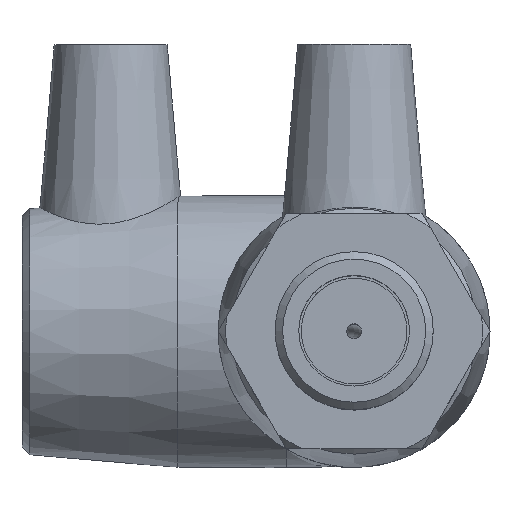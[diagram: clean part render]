
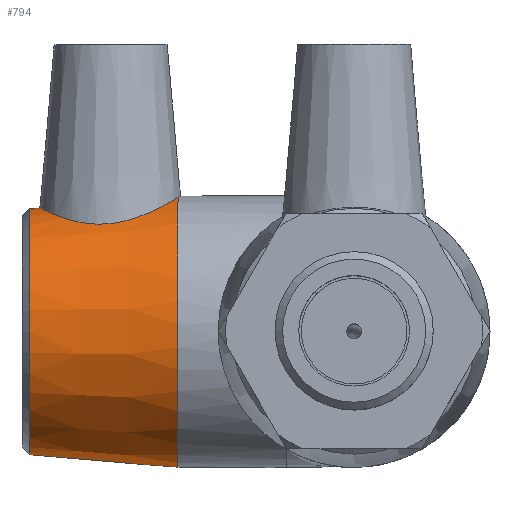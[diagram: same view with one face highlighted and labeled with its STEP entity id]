
A CAD part, top view. The second image highlights one B-rep face of the part: STEP entity #794.
In plain terms, the highlighted conical face has half-angle 4.978 degrees and reference radius 17.1 mm.
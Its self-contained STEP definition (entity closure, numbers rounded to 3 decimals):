
#78=B_SPLINE_CURVE_WITH_KNOTS('',3,(#1270,#1271,#1272,#1273,#1274,#1275,
#1276,#1277,#1278,#1279,#1280,#1281,#1282,#1283,#1284,#1285,#1286,#1287,
#1288,#1289,#1290,#1291,#1292,#1293,#1294,#1295),.UNSPECIFIED.,.F.,.F.,
(4,2,2,2,2,2,2,2,2,2,2,2,4),(5.857,6.206,6.556,
6.908,7.26,7.612,7.964,8.314,
8.663,9.052,9.441,9.814,9.936),
 .UNSPECIFIED.);
#79=B_SPLINE_CURVE_WITH_KNOTS('',3,(#1298,#1299,#1300,#1301,#1302,#1303,
#1304,#1305,#1306,#1307),.UNSPECIFIED.,.F.,.F.,(4,2,2,2,4),(4.584,
4.706,5.079,5.468,5.857),
 .UNSPECIFIED.);
#86=CONICAL_SURFACE('',#869,17.1,4.978);
#139=FACE_BOUND('',#249,.T.);
#179=FACE_OUTER_BOUND('',#248,.T.);
#248=EDGE_LOOP('',(#584,#585,#586));
#249=EDGE_LOOP('',(#587));
#344=CIRCLE('',#868,16.287);
#345=CIRCLE('',#870,18.);
#397=VERTEX_POINT('',#1265);
#398=VERTEX_POINT('',#1268);
#399=VERTEX_POINT('',#1269);
#400=VERTEX_POINT('',#1296);
#476=EDGE_CURVE('',#397,#397,#344,.T.);
#477=EDGE_CURVE('',#398,#399,#78,.T.);
#478=EDGE_CURVE('',#400,#399,#345,.T.);
#479=EDGE_CURVE('',#400,#398,#79,.T.);
#584=ORIENTED_EDGE('',*,*,#477,.T.);
#585=ORIENTED_EDGE('',*,*,#478,.F.);
#586=ORIENTED_EDGE('',*,*,#479,.T.);
#587=ORIENTED_EDGE('',*,*,#476,.F.);
#794=ADVANCED_FACE('',(#179,#139),#86,.T.);
#868=AXIS2_PLACEMENT_3D('',#1266,#1002,#1003);
#869=AXIS2_PLACEMENT_3D('',#1267,#1004,#1005);
#870=AXIS2_PLACEMENT_3D('',#1297,#1006,#1007);
#1002=DIRECTION('center_axis',(-1.,0.,0.));
#1003=DIRECTION('ref_axis',(0.,-1.,0.));
#1004=DIRECTION('center_axis',(1.,0.,0.));
#1005=DIRECTION('ref_axis',(0.,1.,0.));
#1006=DIRECTION('center_axis',(1.,0.,0.));
#1007=DIRECTION('ref_axis',(0.,0.,-1.));
#1265=CARTESIAN_POINT('',(-43.004,16.287,0.));
#1266=CARTESIAN_POINT('Origin',(-43.004,0.,0.));
#1267=CARTESIAN_POINT('Origin',(-33.667,0.,0.));
#1268=CARTESIAN_POINT('',(-32.764,14.272,9.562));
#1269=CARTESIAN_POINT('',(-23.333,17.818,-2.554));
#1270=CARTESIAN_POINT('Ctrl Pts',(-32.764,14.272,9.562));
#1271=CARTESIAN_POINT('Ctrl Pts',(-33.925,14.188,9.505));
#1272=CARTESIAN_POINT('Ctrl Pts',(-35.138,14.268,9.207));
#1273=CARTESIAN_POINT('Ctrl Pts',(-37.326,14.673,8.163));
#1274=CARTESIAN_POINT('Ctrl Pts',(-38.305,14.984,7.417));
#1275=CARTESIAN_POINT('Ctrl Pts',(-39.842,15.557,5.75));
#1276=CARTESIAN_POINT('Ctrl Pts',(-40.512,15.861,4.706));
#1277=CARTESIAN_POINT('Ctrl Pts',(-41.406,16.289,2.418));
#1278=CARTESIAN_POINT('Ctrl Pts',(-41.629,16.406,1.174));
#1279=CARTESIAN_POINT('Ctrl Pts',(-41.629,16.406,-1.174));
#1280=CARTESIAN_POINT('Ctrl Pts',(-41.406,16.289,-2.418));
#1281=CARTESIAN_POINT('Ctrl Pts',(-40.512,15.861,-4.706));
#1282=CARTESIAN_POINT('Ctrl Pts',(-39.842,15.557,-5.75));
#1283=CARTESIAN_POINT('Ctrl Pts',(-38.305,14.984,-7.417));
#1284=CARTESIAN_POINT('Ctrl Pts',(-37.326,14.673,-8.163));
#1285=CARTESIAN_POINT('Ctrl Pts',(-35.138,14.268,-9.207));
#1286=CARTESIAN_POINT('Ctrl Pts',(-33.925,14.188,-9.505));
#1287=CARTESIAN_POINT('Ctrl Pts',(-31.473,14.365,-9.624));
#1288=CARTESIAN_POINT('Ctrl Pts',(-30.141,14.665,-9.398));
#1289=CARTESIAN_POINT('Ctrl Pts',(-27.729,15.484,-8.427));
#1290=CARTESIAN_POINT('Ctrl Pts',(-26.644,15.988,-7.682));
#1291=CARTESIAN_POINT('Ctrl Pts',(-24.961,16.851,-5.985));
#1292=CARTESIAN_POINT('Ctrl Pts',(-24.231,17.276,-4.923));
#1293=CARTESIAN_POINT('Ctrl Pts',(-23.579,17.667,-3.354));
#1294=CARTESIAN_POINT('Ctrl Pts',(-23.443,17.75,-2.958));
#1295=CARTESIAN_POINT('Ctrl Pts',(-23.333,17.818,-2.554));
#1296=CARTESIAN_POINT('',(-23.333,17.818,2.554));
#1297=CARTESIAN_POINT('Origin',(-23.333,0.,0.));
#1298=CARTESIAN_POINT('Ctrl Pts',(-23.333,17.818,2.554));
#1299=CARTESIAN_POINT('Ctrl Pts',(-23.443,17.75,2.958));
#1300=CARTESIAN_POINT('Ctrl Pts',(-23.579,17.667,3.354));
#1301=CARTESIAN_POINT('Ctrl Pts',(-24.231,17.276,4.923));
#1302=CARTESIAN_POINT('Ctrl Pts',(-24.961,16.851,5.985));
#1303=CARTESIAN_POINT('Ctrl Pts',(-26.644,15.988,7.682));
#1304=CARTESIAN_POINT('Ctrl Pts',(-27.729,15.484,8.427));
#1305=CARTESIAN_POINT('Ctrl Pts',(-30.141,14.665,9.398));
#1306=CARTESIAN_POINT('Ctrl Pts',(-31.473,14.365,9.624));
#1307=CARTESIAN_POINT('Ctrl Pts',(-32.764,14.272,9.562));
